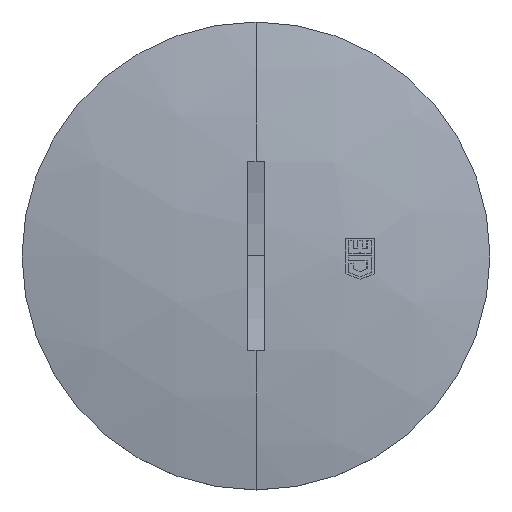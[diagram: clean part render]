
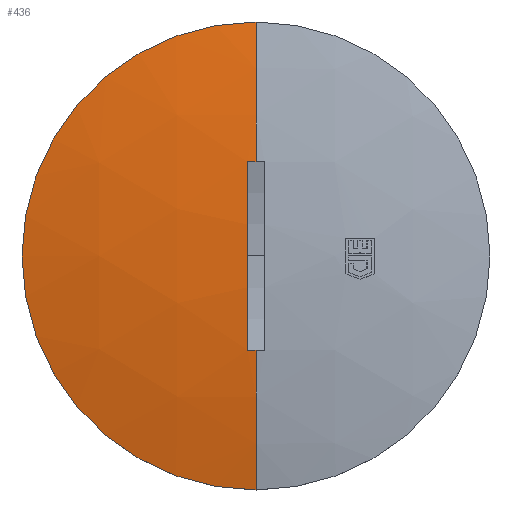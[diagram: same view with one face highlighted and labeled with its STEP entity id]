
A CAD part, top view. The second image highlights one B-rep face of the part: STEP entity #436.
In plain terms, the highlighted spherical face has radius 160 mm.
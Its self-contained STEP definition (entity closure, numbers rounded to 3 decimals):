
#321 = EDGE_CURVE ( 'NONE', #442, #349, #1230, .T. ) ;
#336 = EDGE_CURVE ( 'NONE', #390, #349, #1256, .T. ) ;
#341 = VERTEX_POINT ( 'NONE', #1278 ) ;
#344 = ORIENTED_EDGE ( 'NONE', *, *, #464, .F. ) ;
#349 = VERTEX_POINT ( 'NONE', #1154 ) ;
#389 = EDGE_CURVE ( 'NONE', #390, #393, #1250, .T. ) ;
#390 = VERTEX_POINT ( 'NONE', #1249 ) ;
#393 = VERTEX_POINT ( 'NONE', #1248 ) ;
#433 = ORIENTED_EDGE ( 'NONE', *, *, #434, .T. ) ;
#434 = EDGE_CURVE ( 'NONE', #341, #393, #1345, .T. ) ;
#436 = ADVANCED_FACE ( 'NONE', ( #1359 ), #1420, .T. ) ;
#442 = VERTEX_POINT ( 'NONE', #1330 ) ;
#464 = EDGE_CURVE ( 'NONE', #475, #442, #1440, .T. ) ;
#468 = EDGE_LOOP ( 'NONE', ( #344, #495, #433, #479, #477, #478 ) ) ;
#475 = VERTEX_POINT ( 'NONE', #1454 ) ;
#477 = ORIENTED_EDGE ( 'NONE', *, *, #336, .T. ) ;
#478 = ORIENTED_EDGE ( 'NONE', *, *, #321, .F. ) ;
#479 = ORIENTED_EDGE ( 'NONE', *, *, #389, .F. ) ;
#481 = EDGE_CURVE ( 'NONE', #341, #475, #1447, .T. ) ;
#495 = ORIENTED_EDGE ( 'NONE', *, *, #481, .F. ) ;
#1152 = DIRECTION ( 'NONE',  ( 0., 0., -1. ) ) ;
#1153 = AXIS2_PLACEMENT_3D ( 'NONE', #1293, #1152, #1234 ) ;
#1154 = CARTESIAN_POINT ( 'NONE',  ( 0., 34., 12.346 ) ) ;
#1187 = DIRECTION ( 'NONE',  ( 0., 0., 1. ) ) ;
#1188 = DIRECTION ( 'NONE',  ( -1., 0., 0. ) ) ;
#1189 = CARTESIAN_POINT ( 'NONE',  ( 0., 0., -144. ) ) ;
#1190 = AXIS2_PLACEMENT_3D ( 'NONE', #1189, #1188, #1187 ) ;
#1230 = CIRCLE ( 'NONE', #1153, 34. ) ;
#1234 = DIRECTION ( 'NONE',  ( 0., 1., 0. ) ) ;
#1244 = CARTESIAN_POINT ( 'NONE',  ( -1.25, 13.684, 15.409 ) ) ;
#1245 = CARTESIAN_POINT ( 'NONE',  ( -0.833, 13.693, 15.411 ) ) ;
#1246 = CARTESIAN_POINT ( 'NONE',  ( -0.417, 13.697, 15.413 ) ) ;
#1247 = CARTESIAN_POINT ( 'NONE',  ( 0., 13.697, 15.413 ) ) ;
#1248 = CARTESIAN_POINT ( 'NONE',  ( -1.25, 13.684, 15.409 ) ) ;
#1249 = CARTESIAN_POINT ( 'NONE',  ( 0., 13.697, 15.413 ) ) ;
#1250 = B_SPLINE_CURVE_WITH_KNOTS ( 'NONE', 3,
 ( #1247, #1246, #1245, #1244 ),
 .UNSPECIFIED., .F., .F.,
 ( 4, 4 ),
 ( 0.001, 0.003 ),
 .UNSPECIFIED. ) ;
#1256 = CIRCLE ( 'NONE', #1190, 160. ) ;
#1278 = CARTESIAN_POINT ( 'NONE',  ( -1.25, -13.684, 15.409 ) ) ;
#1293 = CARTESIAN_POINT ( 'NONE',  ( 0., 0., 12.346 ) ) ;
#1330 = CARTESIAN_POINT ( 'NONE',  ( 0., -34., 12.346 ) ) ;
#1341 = CARTESIAN_POINT ( 'NONE',  ( 0., 0., -144. ) ) ;
#1342 = DIRECTION ( 'NONE',  ( 0., 0., -1. ) ) ;
#1343 = DIRECTION ( 'NONE',  ( -1., 0., 0. ) ) ;
#1344 = AXIS2_PLACEMENT_3D ( 'NONE', #1358, #1343, #1342 ) ;
#1345 = CIRCLE ( 'NONE', #1344, 159.995 ) ;
#1358 = CARTESIAN_POINT ( 'NONE',  ( -1.25, 0., -144. ) ) ;
#1359 = FACE_OUTER_BOUND ( 'NONE', #468, .T. ) ;
#1399 = CARTESIAN_POINT ( 'NONE',  ( 0., -13.697, 15.413 ) ) ;
#1400 = CARTESIAN_POINT ( 'NONE',  ( -0.417, -13.697, 15.413 ) ) ;
#1401 = CARTESIAN_POINT ( 'NONE',  ( -0.833, -13.693, 15.411 ) ) ;
#1402 = CARTESIAN_POINT ( 'NONE',  ( -1.25, -13.684, 15.409 ) ) ;
#1417 = DIRECTION ( 'NONE',  ( 0., 1., 0. ) ) ;
#1418 = DIRECTION ( 'NONE',  ( 1., 0., 0. ) ) ;
#1419 = AXIS2_PLACEMENT_3D ( 'NONE', #1341, #1418, #1417 ) ;
#1420 = SPHERICAL_SURFACE ( 'NONE', #1419, 160. ) ;
#1436 = DIRECTION ( 'NONE',  ( 0., 1., 0. ) ) ;
#1437 = DIRECTION ( 'NONE',  ( 1., 0., 0. ) ) ;
#1438 = CARTESIAN_POINT ( 'NONE',  ( 0., 0., -144. ) ) ;
#1439 = AXIS2_PLACEMENT_3D ( 'NONE', #1438, #1437, #1436 ) ;
#1440 = CIRCLE ( 'NONE', #1439, 160. ) ;
#1447 = B_SPLINE_CURVE_WITH_KNOTS ( 'NONE', 3,
 ( #1402, #1401, #1400, #1399 ),
 .UNSPECIFIED., .F., .F.,
 ( 4, 4 ),
 ( 0., 0.001 ),
 .UNSPECIFIED. ) ;
#1454 = CARTESIAN_POINT ( 'NONE',  ( 0., -13.697, 15.413 ) ) ;
